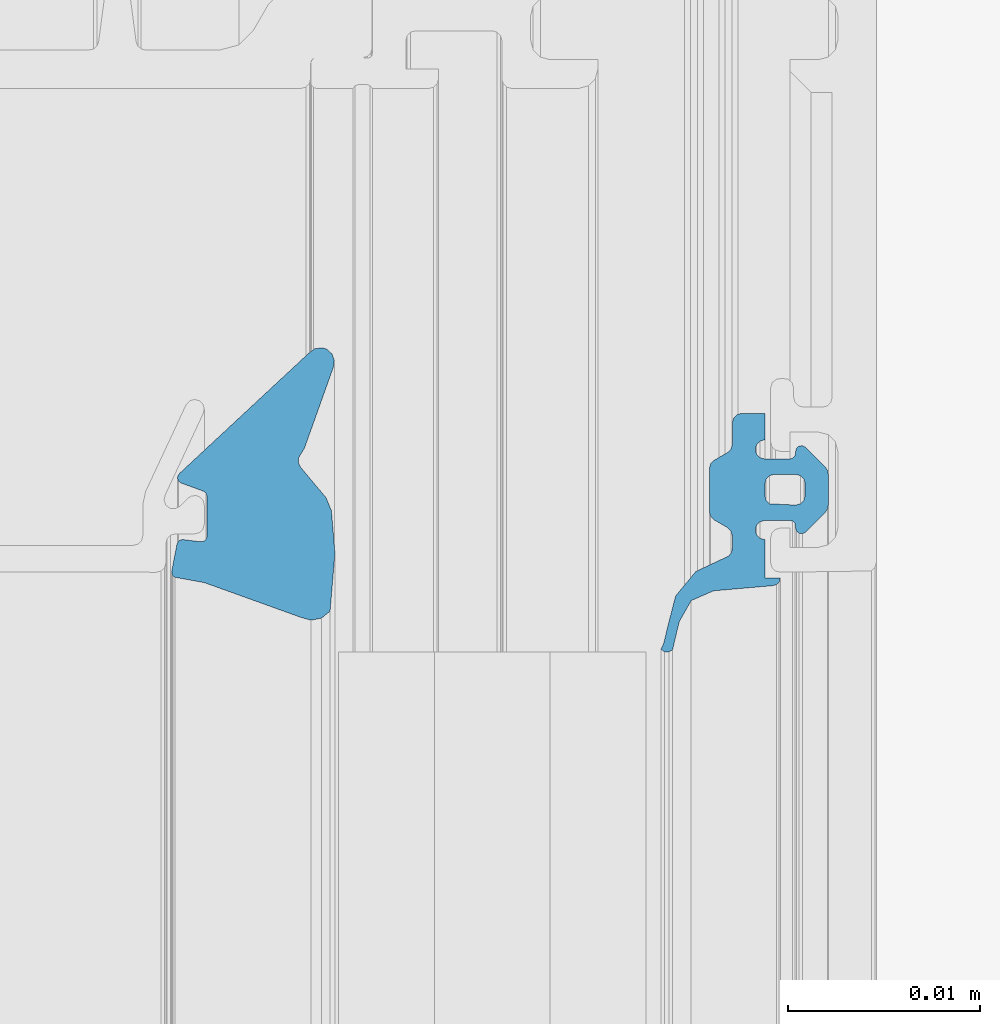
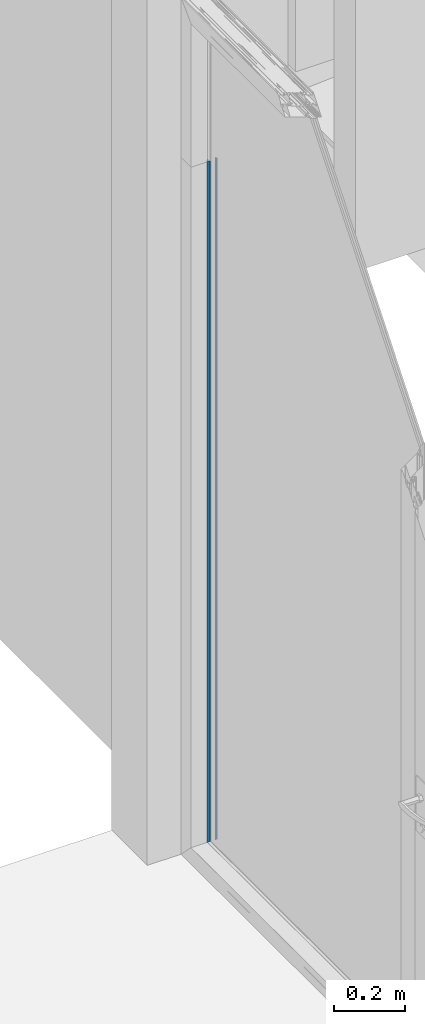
# One storey, part 56 of 89: 1 building element part, 2 elements without a shape of their own.
"""IFC2X3 building model written with IfcOpenShell, lengths in millimetres."""

from ifc_helpers import new_model, entity, si_unit, converted_unit, derived_unit, money_unit, direction, frame, origin_with_axes, place, context, subcontext, project, spatial, faceted_brep, material, type_object, element, aggregate, save


model = new_model("IFC2X3")

# Units and contexts
model_context = context("Model", 3, precision=0.01, world=origin_with_axes(), true_north=direction((0.0, 1.0)))
body_context = subcontext(model_context, "Body", "Model", "MODEL_VIEW")
ifc_project = project(units=[si_unit("LENGTHUNIT", "METRE", prefix="MILLI"), si_unit("AREAUNIT", "SQUARE_METRE"), si_unit("VOLUMEUNIT", "CUBIC_METRE"), converted_unit("PLANEANGLEUNIT", "DEGREE", entity("IfcPlaneAngleMeasure", 0.0174532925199), si_unit("PLANEANGLEUNIT", "RADIAN"), dimensions=[0, 0, 0, 0, 0, 0, 0]), si_unit("SOLIDANGLEUNIT", "STERADIAN"), money_unit("EUR"), converted_unit("TIMEUNIT", "Year", entity("IfcTimeMeasure", 31556926.0), si_unit("TIMEUNIT", "SECOND"), dimensions=[0, 0, 1, 0, 0, 0, 0]), si_unit("MASSUNIT", "GRAM", prefix="KILO"), si_unit("THERMODYNAMICTEMPERATUREUNIT", "DEGREE_CELSIUS"), si_unit("LUMINOUSINTENSITYUNIT", "LUMEN"), si_unit("ENERGYUNIT", "JOULE", prefix="MEGA"), derived_unit("THERMALCONDUCTANCEUNIT", [(si_unit("POWERUNIT", "WATT"), 1), (si_unit("LENGTHUNIT", "METRE"), -1), (si_unit("THERMODYNAMICTEMPERATUREUNIT", "KELVIN"), -1)]), derived_unit("SPECIFICHEATCAPACITYUNIT", [(si_unit("ENERGYUNIT", "JOULE"), 1), (si_unit("MASSUNIT", "GRAM", prefix="KILO"), -1), (si_unit("THERMODYNAMICTEMPERATUREUNIT", "KELVIN"), -1)]), derived_unit("MASSDENSITYUNIT", [(si_unit("MASSUNIT", "GRAM", prefix="KILO"), 1), (si_unit("VOLUMEUNIT", "CUBIC_METRE"), -1)])], contexts=[model_context])

# Site, building, storey
site_placement = place(None, origin_with_axes())
site = spatial("IfcSite", under=ifc_project, at=site_placement, Name="Puškini 31, Narva", CompositionType="ELEMENT")
building_placement = place(site_placement, origin_with_axes())
building = spatial("IfcBuilding", under=site, at=building_placement, Name="Narva Riigigümnaasium", CompositionType="ELEMENT")
storey_placement = place(building_placement, frame((0.0, 0.0, -3300.0), z_axis=(0.0, 0.0, 1.0), x_axis=(1.0, 0.0, 0.0)))
storey = spatial("IfcBuildingStorey", under=building, at=storey_placement, Name="1.korrus -3.3", CompositionType="ELEMENT", Elevation=-3300.0)

# Curtain wall, member, building element part
curtain_wall_type = type_object("IfcCurtainWallType", Name="Curtain Wall Type", PredefinedType="NOTDEFINED")
curtain_wall_placement = place(storey_placement, frame((34855.0104166, 221770.599999, -2.45869391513e-05), z_axis=(0.0, 0.0, 1.0), x_axis=(1.0, 0.0, 0.0)))
curtain_wall = element("IfcCurtainWall", 1, at=curtain_wall_placement, inside=storey, type_object=curtain_wall_type, Name="G-SKLF-08")
member_type = type_object("IfcMemberType", Name="61 x 45", PredefinedType="MULLION")
member_placement = place(curtain_wall_placement, frame((-0.00873769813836, 2029.39999228, 2.45869395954e-05), z_axis=(0.0, 5.89838104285e-09, 1.0), x_axis=(4.3055573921e-06, -0.999999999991, 5.89838104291e-09)))
member = element("IfcMember", 2, at=member_placement, type_object=member_type, Name="G-SKLF-08-raam", ObjectType="MULLION")
aggregate(curtain_wall, [member])
ifc_material = material(Name="Membraan - Veekindel")
building_element_part_placement = place(member_placement, origin_with_axes())
building_element_part = element("IfcBuildingElementPart", 3, at=building_element_part_placement, material=ifc_material, Name="Membraan - Veekindel", context=body_context, shape_type="Brep", body=[
    faceted_brep([(59.5800222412, 34.73794757, 59.5800218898), (59.5800222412, 34.73794757, 2400.00000018), (61.0413385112, 34.3890442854, 2400.00000018), (61.0413385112, 34.3890442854, 61.0413381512), (58.4755028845, 35.3628499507, 58.4755025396), (58.4755028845, 35.3628499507, 2400.00000018), (57.9693613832, 36.5265882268, 2400.00000018), (57.7000324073, 39.5999584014, 2400.00000018), (57.6464370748, 39.799971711, 2400.00000018), (57.5000161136, 39.946391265, 2400.00000018), (57.3000022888, 39.9999846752, 2400.00000018), (57.3000022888, 39.1999494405, 2400.00000018), (55.3000210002, 39.1999606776, 2400.00000018), (55.2330337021, 38.9499606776, 2400.00000018), (55.0500210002, 38.7669479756, 2400.00000018), (54.8000210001, 38.6999606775, 2400.00000018), (54.5500210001, 38.7669479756, 2400.00000018), (54.3670082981, 38.9499606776, 2400.00000018), (54.300021, 39.1999606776, 2400.00000018), (54.300021, 40.4999366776, 2400.00000018), (54.3402133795, 40.6499366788, 2400.00000018), (54.4500210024, 40.7597443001, 2400.00000018), (54.6000210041, 40.7999366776, 2400.00000018), (54.7000173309, 40.7999366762, 2400.00000018), (54.866675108, 40.850483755, 2400.00000018), (54.9771753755, 40.9850924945, 2400.00000018), (54.9942836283, 41.1584047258, 2400.00000018), (54.9122350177, 41.3120206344, 2400.00000018), (53.8716106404, 42.3533776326, 2400.00000018), (53.7093558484, 42.4618547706, 2400.00000018), (53.517932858, 42.4999486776, 2400.00000018), (51.8818844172, 42.4999486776, 2400.00000018), (51.6904310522, 42.4618421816, 2400.00000018), (51.5281601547, 42.3533311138, 2400.00000018), (50.4878083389, 41.3119729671, 2400.00000018), (50.4057850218, 41.1583618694, 2400.00000018), (50.4229059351, 40.9850671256, 2400.00000018), (50.5334025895, 40.8504763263, 2400.00000018), (50.7000457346, 40.7999366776, 2400.00000018), (50.80004, 40.7999366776, 2400.00000018), (50.95004, 40.7597442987, 2400.00000018), (51.0598476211, 40.6499366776, 2400.00000018), (51.10004, 40.4999366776, 2400.00000018), (51.10004, 39.1999550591, 2400.00000018), (51.0330541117, 38.9499546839, 2400.00000018), (50.8500424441, 38.7669409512, 2400.00000018), (50.6000428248, 38.699952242, 2400.00000018), (50.3500424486, 38.7669381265, 2400.00000018), (50.1670287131, 38.9499497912, 2400.00000018), (50.10004, 39.1999494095, 2400.00000018), (48.7206527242, 39.1999494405, 2400.00000018), (48.7206527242, 38.0023809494, 2400.00000018), (48.7876400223, 37.7523809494, 2400.00000018), (48.9706527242, 37.5693682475, 2400.00000018), (49.2206527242, 37.5023809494, 2400.00000018), (50.3319753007, 37.5023809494, 2400.00000018), (50.5819753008, 37.4353936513, 2400.00000018), (50.7649880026, 37.2523809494, 2400.00000018), (51.1691331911, 36.5523809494, 2400.00000018), (51.352145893, 36.3693682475, 2400.00000018), (51.602145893, 36.3023809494, 2400.00000018), (53.8391557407, 36.3023809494, 2400.00000018), (54.0891557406, 36.3693682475, 2400.00000018), (54.2721684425, 36.5523809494, 2400.00000018), (54.676313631, 37.2523809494, 2400.00000018), (54.8593263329, 37.4353936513, 2400.00000018), (55.1093263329, 37.5023809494, 2400.00000018), (55.7607444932, 37.5023809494, 2400.00000018), (55.9795989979, 37.4519392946, 2400.00000018), (56.1542959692, 37.3107917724, 2400.00000018), (56.2495873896, 37.1074172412, 2400.00000018), (56.9567944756, 35.6067920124, 2400.00000018), (58.2346494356, 34.5489145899, 2400.00000018), (59.8409257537, 34.1343131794, 2400.00000018), (60.7381535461, 33.9217644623, 2400.00000018), (61.0108941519, 33.784859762, 2400.00000018), (61.1423164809, 33.9681748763, 2400.00000018), (61.1536677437, 34.1934467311, 2400.00000018), (53.5000340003, 40.7999553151, 2400.00000018), (53.433048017, 39.44993177, 2400.00000018), (53.2500389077, 39.2669226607, 2400.00000018), (53.0000438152, 39.1999366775, 2400.00000018), (52.4000171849, 39.1999366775, 2400.00000018), (52.1500220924, 39.2669226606, 2400.00000018), (51.9670129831, 39.4499317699, 2400.00000018), (51.9000269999, 39.6999268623, 2400.00000018), (51.9000269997, 40.799955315, 2400.00000018), (51.9670118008, 41.0499459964, 2400.00000018), (52.150017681, 41.2329518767, 2400.00000018), (52.4000083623, 41.299936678, 2400.00000018), (53.0000526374, 41.299936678, 2400.00000018), (53.2500433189, 41.2329518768, 2400.00000018), (53.4330491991, 41.0499459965, 2400.00000018), (61.1536677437, 34.1934467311, 61.153667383), (61.1423164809, 33.9681748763, 61.1423161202), (61.0108941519, 33.784859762, 61.010893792), (60.7381535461, 33.9217644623, 60.7381531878), (59.8409257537, 34.1343131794, 59.8409254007), (58.2346494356, 34.5489145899, 58.2346490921), (56.9567944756, 35.6067920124, 56.9567941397), (56.2495873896, 37.1074172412, 56.2495870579), (56.1542959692, 37.3107917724, 56.1542956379), (55.9795989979, 37.4519392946, 55.9795986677), (55.7607444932, 37.5023809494, 55.7607441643), (55.1093263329, 37.5023809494, 55.1093260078), (54.8593263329, 37.4353936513, 54.8593260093), (54.676313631, 37.2523809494, 54.6763133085), (54.2721684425, 36.5523809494, 54.2721681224), (54.0891557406, 36.3693682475, 54.0891554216), (53.8391557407, 36.3023809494, 53.8391554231), (51.602145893, 36.3023809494, 51.6021455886), (51.352145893, 36.3693682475, 51.3521455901), (51.1691331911, 36.5523809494, 51.1691328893), (50.7649880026, 37.2523809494, 50.7649877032), (50.5819753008, 37.4353936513, 50.5819750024), (50.3319753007, 37.5023809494, 50.3319750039), (49.2206527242, 37.5023809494, 49.2206524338), (48.9706527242, 37.5693682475, 48.9706524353), (48.7876400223, 37.7523809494, 48.7876397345), (48.7206527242, 38.0023809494, 48.7206524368), (48.7206527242, 39.1999494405, 48.7206524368), (50.10004, 39.1999494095, 50.1000397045), (50.1670287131, 38.9499497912, 50.1670284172), (50.3500424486, 38.7669381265, 50.3500421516), (50.6000428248, 38.699952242, 50.6000425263), (50.8500424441, 38.7669409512, 50.8500421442), (51.0330541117, 38.9499546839, 51.0330538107), (51.10004, 39.1999550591, 51.1000396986), (51.10004, 40.4999366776, 51.1000396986), (51.0598476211, 40.6499366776, 51.05984732), (50.95004, 40.7597442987, 50.9500396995), (50.80004, 40.7999366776, 50.8000397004), (50.7000457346, 40.7999366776, 50.7000454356), (50.5334025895, 40.8504763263, 50.5334022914), (50.4229059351, 40.9850671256, 50.4229056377), (50.4057850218, 41.1583618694, 50.4057847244), (50.4878083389, 41.3119729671, 50.4878080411), (51.5281601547, 42.3533311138, 51.5281598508), (51.6904310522, 42.4618421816, 51.6904307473), (51.8818844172, 42.4999486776, 51.8818841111), (53.517932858, 42.4999486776, 53.5179325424), (53.7093558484, 42.4618547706, 53.7093555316), (53.8716106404, 42.3533776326, 53.8716103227), (54.9122350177, 41.3120206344, 54.9122346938), (54.9942836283, 41.1584047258, 54.9942833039), (54.9771753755, 40.9850924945, 54.9771750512), (54.866675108, 40.850483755, 54.8666747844), (54.7000173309, 40.7999366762, 54.7000170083), (54.6000210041, 40.7999366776, 54.600020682), (54.4500210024, 40.7597443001, 54.4500206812), (54.3402133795, 40.6499366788, 54.340213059), (54.300021, 40.4999366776, 54.3000206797), (54.300021, 39.1999606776, 54.3000206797), (54.3670082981, 38.9499606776, 54.3670079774), (54.5500210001, 38.7669479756, 54.5500206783), (54.8000210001, 38.6999606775, 54.8000206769), (55.0500210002, 38.7669479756, 55.0500206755), (55.2330337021, 38.9499606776, 55.2330333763), (55.3000210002, 39.1999606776, 55.300020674), (57.3000022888, 39.1999494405, 57.3000019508), (57.3000022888, 39.9999846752, 57.3000019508), (57.5000161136, 39.946391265, 57.5000157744), (57.6464370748, 39.799971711, 57.6464367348), (57.7000324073, 39.5999584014, 57.700032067), (57.9693613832, 36.5265882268, 57.9693610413), (53.5000340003, 40.7999553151, 53.5000336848), (53.4330491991, 41.0499459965, 53.4330488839), (53.2500433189, 41.2329518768, 53.2500430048), (53.0000526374, 41.299936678, 53.0000523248), (52.4000083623, 41.299936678, 52.4000080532), (52.150017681, 41.2329518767, 52.1500173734), (51.9670118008, 41.0499459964, 51.9670114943), (51.9000269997, 40.799955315, 51.9000266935), (51.9000269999, 39.6999268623, 51.9000266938), (51.9670129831, 39.4499317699, 51.9670126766), (52.1500220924, 39.2669226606, 52.1500217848), (52.4000171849, 39.1999366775, 52.4000168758), (53.0000438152, 39.1999366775, 53.0000435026), (53.2500389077, 39.2669226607, 53.2500385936), (53.433048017, 39.44993177, 53.4330477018)], [[[0, 1, 2, 3]], [[4, 5, 1, 0]], [[2, 1, 5, 6, 7, 8, 9, 10, 11, 12, 13, 14, 15, 16, 17, 18, 19, 20, 21, 22, 23, 24, 25, 26, 27, 28, 29, 30, 31, 32, 33, 34, 35, 36, 37, 38, 39, 40, 41, 42, 43, 44, 45, 46, 47, 48, 49, 50, 51, 52, 53, 54, 55, 56, 57, 58, 59, 60, 61, 62, 63, 64, 65, 66, 67, 68, 69, 70, 71, 72, 73, 74, 75, 76, 77], [78, 79, 80, 81, 82, 83, 84, 85, 86, 87, 88, 89, 90, 91, 92]], [[3, 2, 77, 93]], [[3, 93, 94, 95, 96, 97, 98, 99, 100, 101, 102, 103, 104, 105, 106, 107, 108, 109, 110, 111, 112, 113, 114, 115, 116, 117, 118, 119, 120, 121, 122, 123, 124, 125, 126, 127, 128, 129, 130, 131, 132, 133, 134, 135, 136, 137, 138, 139, 140, 141, 142, 143, 144, 145, 146, 147, 148, 149, 150, 151, 152, 153, 154, 155, 156, 157, 158, 159, 160, 161, 162, 163, 164, 4, 0], [165, 166, 167, 168, 169, 170, 171, 172, 173, 174, 175, 176, 177, 178, 179]], [[164, 6, 5, 4]], [[163, 7, 6, 164]], [[162, 8, 7, 163]], [[161, 9, 8, 162]], [[160, 10, 9, 161]], [[159, 11, 10, 160]], [[158, 12, 11, 159]], [[157, 13, 12, 158]], [[156, 14, 13, 157]], [[155, 15, 14, 156]], [[154, 16, 15, 155]], [[153, 17, 16, 154]], [[152, 18, 17, 153]], [[151, 19, 18, 152]], [[150, 20, 19, 151]], [[149, 21, 20, 150]], [[148, 22, 21, 149]], [[147, 23, 22, 148]], [[146, 24, 23, 147]], [[145, 25, 24, 146]], [[144, 26, 25, 145]], [[143, 27, 26, 144]], [[142, 28, 27, 143]], [[141, 29, 28, 142]], [[140, 30, 29, 141]], [[139, 31, 30, 140]], [[138, 32, 31, 139]], [[137, 33, 32, 138]], [[136, 34, 33, 137]], [[135, 35, 34, 136]], [[134, 36, 35, 135]], [[133, 37, 36, 134]], [[132, 38, 37, 133]], [[131, 39, 38, 132]], [[130, 40, 39, 131]], [[129, 41, 40, 130]], [[128, 42, 41, 129]], [[127, 43, 42, 128]], [[126, 44, 43, 127]], [[125, 45, 44, 126]], [[124, 46, 45, 125]], [[123, 47, 46, 124]], [[122, 48, 47, 123]], [[121, 49, 48, 122]], [[120, 50, 49, 121]], [[119, 51, 50, 120]], [[118, 52, 51, 119]], [[117, 53, 52, 118]], [[116, 54, 53, 117]], [[115, 55, 54, 116]], [[114, 56, 55, 115]], [[113, 57, 56, 114]], [[112, 58, 57, 113]], [[111, 59, 58, 112]], [[110, 60, 59, 111]], [[109, 61, 60, 110]], [[108, 62, 61, 109]], [[107, 63, 62, 108]], [[106, 64, 63, 107]], [[105, 65, 64, 106]], [[104, 66, 65, 105]], [[103, 67, 66, 104]], [[102, 68, 67, 103]], [[101, 69, 68, 102]], [[100, 70, 69, 101]], [[99, 71, 70, 100]], [[98, 72, 71, 99]], [[97, 73, 72, 98]], [[96, 74, 73, 97]], [[95, 75, 74, 96]], [[94, 76, 75, 95]], [[93, 77, 76, 94]], [[179, 79, 78, 165]], [[178, 80, 79, 179]], [[177, 81, 80, 178]], [[176, 82, 81, 177]], [[175, 83, 82, 176]], [[174, 84, 83, 175]], [[173, 85, 84, 174]], [[172, 86, 85, 173]], [[171, 87, 86, 172]], [[170, 88, 87, 171]], [[169, 89, 88, 170]], [[168, 90, 89, 169]], [[167, 91, 90, 168]], [[166, 92, 91, 167]], [[165, 78, 92, 166]]]),
    faceted_brep([(55.9926715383, 16.8063498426, 55.9926712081), (55.9926715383, 16.8063498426, 2400.00000018), (59.0307115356, 16.554149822, 2400.00000018), (59.0307115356, 16.554149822, 59.0307111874), (53.7899070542, 16.6230039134, 53.789906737), (53.7899070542, 16.6230039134, 2400.00000018), (53.1225200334, 16.3483062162, 2400.00000018), (51.5205025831, 15.0099586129, 2400.00000018), (51.3011765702, 14.8998814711, 2400.00000018), (51.0558924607, 14.9074036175, 2400.00000018), (50.8437237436, 15.0307134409, 2400.00000018), (50.5536994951, 15.2121179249, 2400.00000018), (46.298307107, 16.7340705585, 2400.00000018), (45.950966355, 16.7718696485, 2400.00000018), (45.6241929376, 16.6482027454, 2400.00000018), (45.3889077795, 16.3899097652, 2400.00000018), (45.3195226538, 16.2152275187, 2400.00000018), (45.3418968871, 15.7688623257, 2400.00000018), (45.6142070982, 15.4144760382, 2400.00000018), (51.8169217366, 8.74599822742, 2400.00000018), (51.938943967, 8.6326446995, 2400.00000018), (52.1026310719, 8.60190419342, 2400.00000018), (52.2574645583, 8.66326410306, 2400.00000018), (52.3556584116, 8.79778701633, 2400.00000018), (52.7761212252, 9.95299910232, 2400.00000018), (52.8859560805, 10.0961386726, 2400.00000018), (53.0580290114, 10.1503930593, 2400.00000018), (55.1123574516, 10.1503930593, 2400.00000018), (55.2731258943, 10.1036784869, 2400.00000018), (55.3838261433, 9.9780831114, 2400.00000018), (55.4099827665, 9.81272116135, 2400.00000018), (55.2940485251, 8.85237785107, 2400.00000018), (55.3307332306, 8.72753828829, 2400.00000018), (55.4168250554, 8.62997353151, 2400.00000018), (55.5361285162, 8.57803733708, 2400.00000018), (56.9361285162, 8.30590490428, 2400.00000018), (57.0661058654, 8.3093438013, 2400.00000018), (57.1824204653, 8.36745448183, 2400.00000018), (57.2632233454, 8.46932121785, 2400.00000018), (57.5418652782, 10.0035930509, 2400.00000018), (59.3405112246, 15.0012955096, 2400.00000018), (59.5001582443, 15.5494067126, 2400.00000018), (59.3884652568, 16.1092618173, 2400.00000018), (59.3884652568, 16.1092618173, 59.3884649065), (59.5001582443, 15.5494067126, 59.5001578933), (59.3405112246, 15.0012955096, 59.3405108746), (57.5418652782, 10.0035930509, 57.5418649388), (57.2632233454, 8.46932121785, 57.2632230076), (57.1824204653, 8.36745448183, 57.182420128), (57.0661058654, 8.3093438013, 57.0661055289), (56.9361285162, 8.30590490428, 56.9361281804), (55.5361285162, 8.57803733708, 55.5361281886), (55.4168250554, 8.62997353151, 55.4168247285), (55.3307332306, 8.72753828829, 55.3307329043), (55.2940485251, 8.85237785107, 55.294048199), (55.4099827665, 9.81272116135, 55.4099824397), (55.3838261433, 9.9780831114, 55.3838258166), (55.2731258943, 10.1036784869, 55.2731255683), (55.1123574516, 10.1503930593, 55.1123571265), (53.0580290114, 10.1503930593, 53.0580286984), (52.8859560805, 10.0961386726, 52.8859557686), (52.7761212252, 9.95299910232, 52.7761209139), (52.3556584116, 8.79778701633, 52.3556581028), (52.2574645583, 8.66326410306, 52.2574642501), (52.1026310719, 8.60190419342, 52.1026307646), (51.938943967, 8.6326446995, 51.9389436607), (51.8169217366, 8.74599822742, 51.8169214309), (45.6142070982, 15.4144760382, 45.6142068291), (45.3418968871, 15.7688623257, 45.3418966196), (45.3195226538, 16.2152275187, 45.3195223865), (45.3889077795, 16.3899097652, 45.3889075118), (45.6241929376, 16.6482027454, 45.6241926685), (45.950966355, 16.7718696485, 45.9509660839), (46.298307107, 16.7340705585, 46.2983068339), (50.5536994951, 15.2121179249, 50.5536991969), (50.8437237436, 15.0307134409, 50.8437234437), (51.0558924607, 14.9074036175, 51.0558921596), (51.3011765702, 14.8998814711, 51.3011762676), (51.5205025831, 15.0099586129, 51.5205022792), (53.1225200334, 16.3483062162, 53.1225197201)], [[[0, 1, 2, 3]], [[4, 5, 1, 0]], [[2, 1, 5, 6, 7, 8, 9, 10, 11, 12, 13, 14, 15, 16, 17, 18, 19, 20, 21, 22, 23, 24, 25, 26, 27, 28, 29, 30, 31, 32, 33, 34, 35, 36, 37, 38, 39, 40, 41, 42]], [[3, 2, 42, 43]], [[3, 43, 44, 45, 46, 47, 48, 49, 50, 51, 52, 53, 54, 55, 56, 57, 58, 59, 60, 61, 62, 63, 64, 65, 66, 67, 68, 69, 70, 71, 72, 73, 74, 75, 76, 77, 78, 79, 4, 0]], [[79, 6, 5, 4]], [[78, 7, 6, 79]], [[77, 8, 7, 78]], [[76, 9, 8, 77]], [[75, 10, 9, 76]], [[74, 11, 10, 75]], [[73, 12, 11, 74]], [[72, 13, 12, 73]], [[71, 14, 13, 72]], [[70, 15, 14, 71]], [[69, 16, 15, 70]], [[68, 17, 16, 69]], [[67, 18, 17, 68]], [[66, 19, 18, 67]], [[65, 20, 19, 66]], [[64, 21, 20, 65]], [[63, 22, 21, 64]], [[62, 23, 22, 63]], [[61, 24, 23, 62]], [[60, 25, 24, 61]], [[59, 26, 25, 60]], [[58, 27, 26, 59]], [[57, 28, 27, 58]], [[56, 29, 28, 57]], [[55, 30, 29, 56]], [[54, 31, 30, 55]], [[53, 32, 31, 54]], [[52, 33, 32, 53]], [[51, 34, 33, 52]], [[50, 35, 34, 51]], [[49, 36, 35, 50]], [[48, 37, 36, 49]], [[47, 38, 37, 48]], [[46, 39, 38, 47]], [[45, 40, 39, 46]], [[44, 41, 40, 45]], [[43, 42, 41, 44]]]),
])
aggregate(member, [building_element_part])

save(model, "model.ifc")
